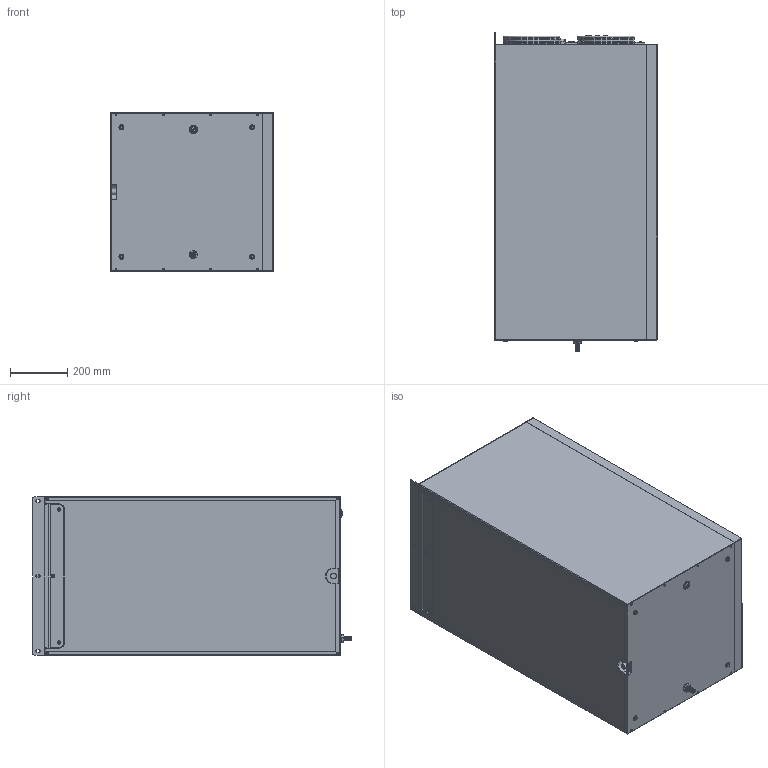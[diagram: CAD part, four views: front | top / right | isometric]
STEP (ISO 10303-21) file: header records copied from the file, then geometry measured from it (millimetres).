
FILE_DESCRIPTION(/* description */ (''),/* implementation_level */ '2;1');
FILE_NAME(/* name */ 'C:\WF Home\ECO275 V - BIM.stp',/* time_stamp */ '2020-09-21T09:37:24+02:00',/* author */ ('3113thmo'),/* organization */ (''),/* preprocessor_version */ 'ST-DEVELOPER v16.13',/* originating_system */ 'Autodesk Inventor 2018',/* authorisation */ '');
FILE_SCHEMA (('AUTOMOTIVE_DESIGN { 1 0 10303 214 3 1 1 }'));
Products named in the file (1): ECO275 V - BIM
Bounding box: 572.77 x 1117.9 x 557.8 mm (x, y, z)
Volume: 330596995.2 mm3; surface area: 3175109 mm2
Topology: 1 solids, 5 shells, 1752 faces, 4337 edges, 2766 vertices
Faces by surface type: plane 898, bspline 268, cylinder 232, torus 166, cone 150, sphere 38
Full cylindrical faces by diameter (mm): 2.729 x2, 3 x2, 3.3 x2, 4 x2, 4.9 x2, 5 x4, 6 x5, 6.3 x20, 6.5 x2, 8 x3, 10.5 x4, 12 x7, 14 x2, 15 x2, 17.5 x1, 17.7 x1, 19 x1, 20 x1, 21 x1, 29.7 x1, 160 x4, 200 x4
Entity records: 58426 total; most frequent: CARTESIAN_POINT 17807, ORIENTED_EDGE 8008, DIRECTION 7367, EDGE_CURVE 4001, VERTEX_POINT 2705, AXIS2_PLACEMENT_3D 2547, LINE 2273, VECTOR 2273
